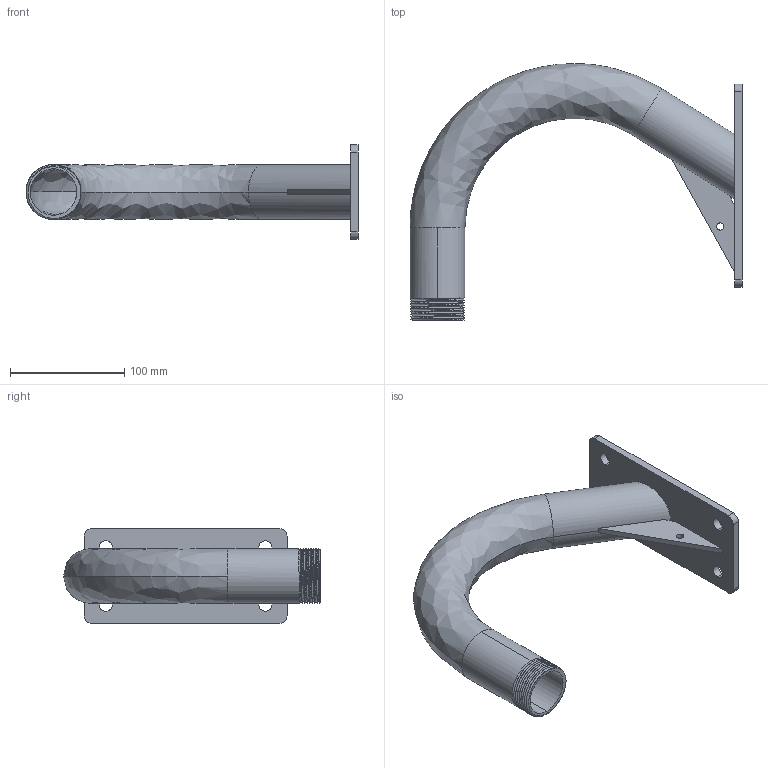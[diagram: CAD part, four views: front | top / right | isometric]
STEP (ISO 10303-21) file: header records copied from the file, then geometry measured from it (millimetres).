
FILE_DESCRIPTION (( 'STEP AP203' ), '1' );
FILE_NAME ('320A185 NEW GOOSENECK ASSEMBLY1.STEP', '2021-09-21T15:31:27', ( '' ), ( '' ), 'SwSTEP 2.0', 'SolidWorks 2021', '' );
FILE_SCHEMA (( 'CONFIG_CONTROL_DESIGN' ));
Length unit declared in the file: inch
Products named in the file (4): 320A182 P00 Gusset for 320A106G14 gooseneck_1; 320A184 P00 New Gooseneck Pipe_1; 320A185 NEW GOOSENECK ASSEMBLY1; 320A183 P00 New Gooseneck Back Plate_1
Assembly tree (3 placements, depth 2):
  320A185 NEW GOOSENECK ASSEMBLY1
    320A183 P00 New Gooseneck Back Plate_1
    320A184 P00 New Gooseneck Pipe_1
    320A182 P00 Gusset for 320A106G14 gooseneck_1
Bounding box: 290.78 x 225.02 x 82.55 mm (x, y, z)
Volume: 308183.9 mm3; surface area: 159333.8 mm2
Topology: 3 solids, 3 shells, 62 faces, 164 edges, 108 vertices
Faces by surface type: cylinder 40, plane 16, bspline 6
Entity records: 9125 total; most frequent: CARTESIAN_POINT 7262, ORIENTED_EDGE 328, DIRECTION 257, EDGE_CURVE 164, VERTEX_POINT 108, AXIS2_PLACEMENT_3D 95, EDGE_LOOP 76, LINE 67
